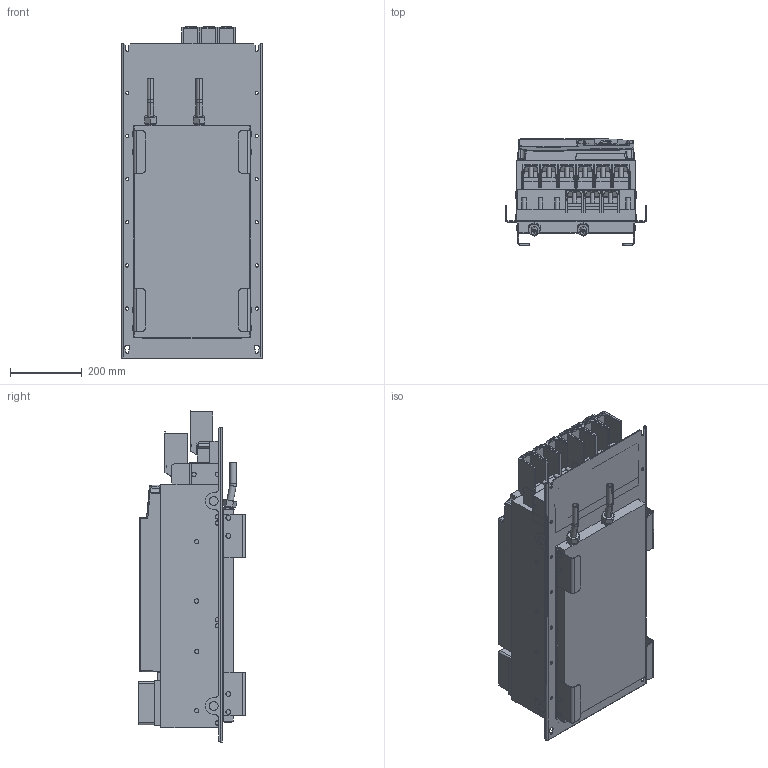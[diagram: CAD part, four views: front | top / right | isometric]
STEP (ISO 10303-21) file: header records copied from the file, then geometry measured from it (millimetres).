
FILE_DESCRIPTION (( 'STEP AP214' ), '1' );
FILE_NAME ('10076594_000.STEP', '2024-01-10T15:03:13', ( '' ), ( '' ), 'SwSTEP 2.0', 'SolidWorks 2022', '' );
FILE_SCHEMA (( 'AUTOMOTIVE_DESIGN' ));
Length unit declared in the file: millimetre
Products named in the file (13): Kundenmodell^10076568_000; Kundenmodell^10059764_000; 10059764_000_Blindabdeckung (Kundenmodell); Kundenmodell^10040552_000; Kundenmodell^10035736_000; 10035736_000_Kundenmodell; 10076568_000_Kundenmodell; Kundenmodell^10038044_000; 10040552_000_Kundenmodell; Kundenmodell^10047771_000; 10038044_000_Kundemodell; 10047771_000_Kundenmodell; 10076594_000
Assembly tree (12 placements, depth 4):
  10076594_000
    10076568_000_Kundenmodell
      10038044_000_Kundemodell
        Kundenmodell^10038044_000
      Kundenmodell^10076568_000
    10040552_000_Kundenmodell
      10047771_000_Kundenmodell
        Kundenmodell^10047771_000
      Kundenmodell^10040552_000
    10035736_000_Kundenmodell
      10059764_000_Blindabdeckung (Kundenmodell)
        Kundenmodell^10059764_000
      Kundenmodell^10035736_000
Bounding box: 392 x 296.9 x 923.32 mm (x, y, z)
Volume: 62334470.3 mm3; surface area: 2900041.6 mm2
Topology: 6 solids, 32 shells, 2951 faces, 7447 edges, 4601 vertices
Faces by surface type: plane 1501, cylinder 862, bspline 231, cone 156, sphere 154, torus 47
Entity records: 94650 total; most frequent: CARTESIAN_POINT 25208, ORIENTED_EDGE 14672, DIRECTION 13761, EDGE_CURVE 7336, AXIS2_PLACEMENT_3D 4599, VERTEX_POINT 4598, VECTOR 4563, LINE 4563
